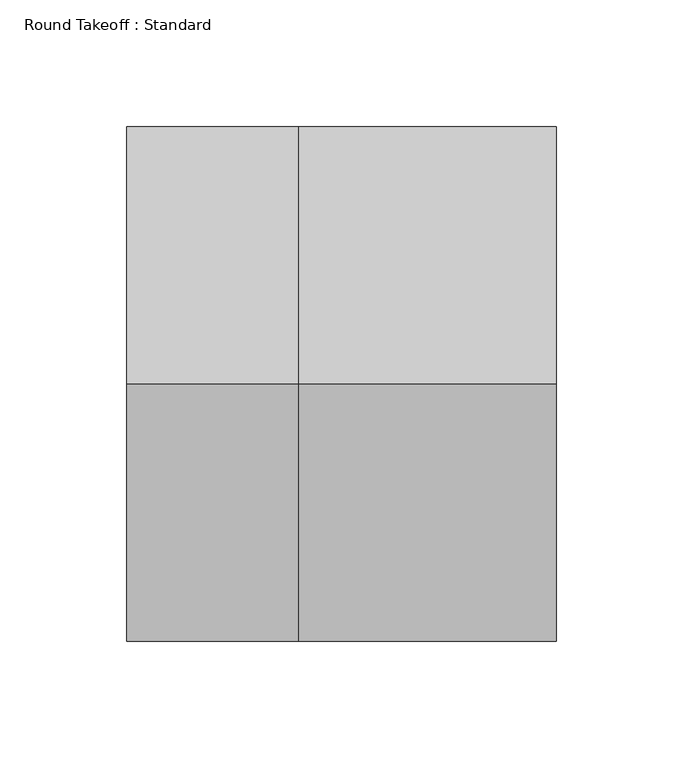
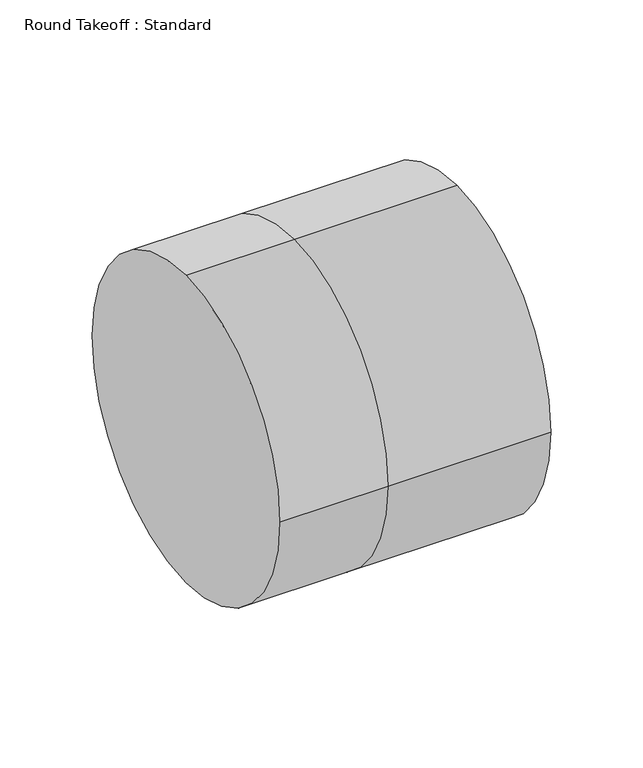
"""IFC4 building model written with IfcOpenShell, lengths in millimetres: duct fitting geometry, Round Takeoff : Standard."""

from ifc_helpers import new_model, si_unit, frame, origin, place, context, project, spatial, circle_curve, source, transform, mapped, element, save
from ifc_brep_helpers import plane_surface, cylinder_surface, advanced_brep


def round_takeoff_standard_d07f2805(model_context):
    return source(origin(), model_context, "Body", "AdvancedBrep", [
        advanced_brep(
        [(101.6, 0.0, 101.6), (101.6, -101.6, 0.0), (101.6, 0.0, -101.6), (101.6, 101.6, 0.0), (0.0, 101.6, 0.0), (0.0, 0.0, 101.6), (0.0, 0.0, -101.6), (0.0, -101.6, 0.0), (-68.0325586, 0.0, 101.6), (-68.0325586, 101.6, 0.0), (-68.0325586, 0.0, -101.6), (-68.0325586, -101.6, 0.0)],
        [
            (0, 1, circle_curve(frame((101.6, 0.0, 0.0), z_axis=(1.0, 0.0, 0.0), x_axis=(0.0, 1.0, 0.0)), 101.6)),
            (1, 2, circle_curve(frame((101.6, 0.0, 0.0), z_axis=(1.0, 0.0, 0.0), x_axis=(0.0, 1.0, 0.0)), 101.6)),
            (2, 3, circle_curve(frame((101.6, 0.0, 0.0), z_axis=(1.0, 0.0, 0.0), x_axis=(0.0, 1.0, 0.0)), 101.6)),
            (3, 0, circle_curve(frame((101.6, 0.0, 0.0), z_axis=(1.0, 0.0, 0.0), x_axis=(0.0, 1.0, 0.0)), 101.6)),
            (3, 4),
            (4, 5, circle_curve(frame((0.0, 0.0, 0.0), z_axis=(1.0, 0.0, 0.0), x_axis=(0.0, 1.0, 0.0)), 101.6)),
            (5, 0),
            (2, 6),
            (6, 4, circle_curve(frame((0.0, 0.0, 0.0), z_axis=(1.0, 0.0, 0.0), x_axis=(0.0, 1.0, 0.0)), 101.6)),
            (1, 7),
            (7, 6, circle_curve(frame((0.0, 0.0, 0.0), z_axis=(1.0, 0.0, 0.0), x_axis=(0.0, 1.0, 0.0)), 101.6)),
            (5, 7, circle_curve(frame((0.0, 0.0, 0.0), z_axis=(1.0, 0.0, 0.0), x_axis=(0.0, 1.0, 0.0)), 101.6)),
            (8, 9, circle_curve(frame((-68.0325586, 0.0, 0.0), z_axis=(-1.0, 0.0, 0.0), x_axis=(0.0, 1.0, 0.0)), 101.6)),
            (9, 10, circle_curve(frame((-68.0325586, 0.0, 0.0), z_axis=(-1.0, 0.0, 0.0), x_axis=(0.0, 1.0, 0.0)), 101.6)),
            (10, 11, circle_curve(frame((-68.0325586, 0.0, 0.0), z_axis=(-1.0, 0.0, 0.0), x_axis=(0.0, 1.0, 0.0)), 101.6)),
            (11, 8, circle_curve(frame((-68.0325586, 0.0, 0.0), z_axis=(-1.0, 0.0, 0.0), x_axis=(0.0, 1.0, 0.0)), 101.6)),
            (8, 5),
            (4, 9),
            (6, 10),
            (7, 11),
        ],
        [
            plane_surface(frame((101.6, 0.0, 0.0), z_axis=(1.0, 0.0, 0.0), x_axis=(0.0, 0.0, 1.0))),
            cylinder_surface(frame((0.0, 0.0, 0.0), z_axis=(-1.0, 0.0, 0.0), x_axis=(0.0, 1.0, 0.0)), 101.6),
            plane_surface(frame((-68.0325586, 0.0, 0.0), z_axis=(-1.0, 0.0, 0.0), x_axis=(0.0, 0.0, 1.0))),
            cylinder_surface(frame((-68.0325586, 0.0, 0.0), z_axis=(-1.0, 0.0, 0.0), x_axis=(0.0, 1.0, 0.0)), 101.6),
        ],
        [
            (0, [[1, 2, 3, 4]]),
            (1, [[-4, 5, 6, 7]]),
            (1, [[-3, 8, 9, -5]]),
            (1, [[-2, 10, 11, -8]]),
            (1, [[-1, -7, 12, -10]]),
            (2, [[13, 14, 15, 16]]),
            (3, [[-13, 17, -6, 18]]),
            (3, [[-14, -18, -9, 19]]),
            (3, [[-15, -19, -11, 20]]),
            (3, [[-16, -20, -12, -17]]),
        ],
    ),
    ])


if __name__ == "__main__":
    model = new_model("IFC4")
    model_context = context("Model", 3, world=origin())
    ifc_project = project(units=[si_unit("LENGTHUNIT", "METRE", prefix="MILLI")], contexts=[model_context])
    site = spatial("IfcSite", under=ifc_project)
    building = spatial("IfcBuilding", under=site)
    placement = place(None, origin())
    round_takeoff_standard_shape = round_takeoff_standard_d07f2805(model_context)
    element("IfcDuctFitting", 1, ObjectType="Round Takeoff : Standard", at=placement, inside=building, context=model_context, shape_type="MappedRepresentation", body=[
        mapped(round_takeoff_standard_shape, transform((0.0, 0.0, 0.0), x_axis=(1.0, 0.0, 0.0), y_axis=(0.0, 1.0, 0.0), z_axis=(0.0, 0.0, 1.0))),
    ])
    save(model, "model.ifc")
